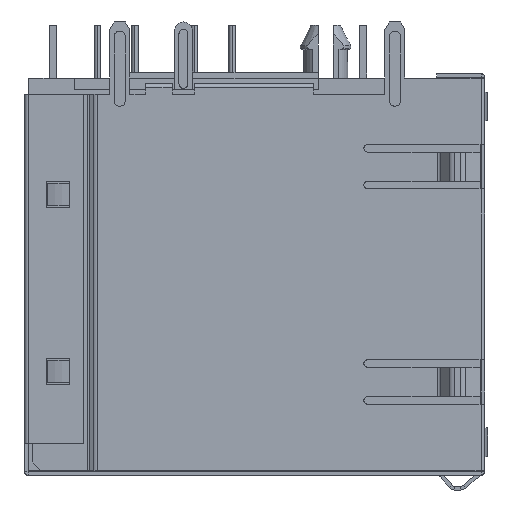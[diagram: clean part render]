
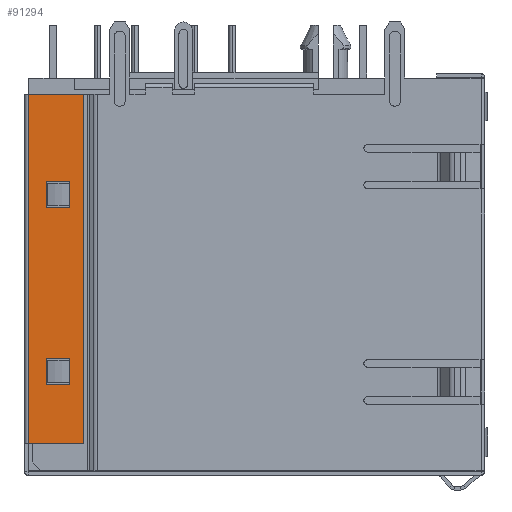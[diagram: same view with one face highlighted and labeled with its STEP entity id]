
A CAD part, left-side view. The second image highlights one B-rep face of the part: STEP entity #91294.
In plain terms, the highlighted planar face has unit normal (-1, 0, 0).
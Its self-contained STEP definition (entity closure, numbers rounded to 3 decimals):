
#84595=DIRECTION('',(0.,0.,-1.));
#84596=VECTOR('',#84595,23.7);
#84597=CARTESIAN_POINT('',(-32.955,15.365,25.85));
#84598=LINE('',#84597,#84596);
#84599=DIRECTION('',(0.,1.,0.));
#84600=VECTOR('',#84599,3.75);
#84601=CARTESIAN_POINT('',(-32.955,11.615,2.15));
#84602=LINE('',#84601,#84600);
#84603=DIRECTION('',(0.,-1.,0.));
#84604=VECTOR('',#84603,3.75);
#84605=CARTESIAN_POINT('',(-32.955,15.365,25.85));
#84606=LINE('',#84605,#84604);
#84607=DIRECTION('',(0.,0.,-1.));
#84608=VECTOR('',#84607,23.7);
#84609=CARTESIAN_POINT('',(-32.955,11.615,25.85));
#84610=LINE('',#84609,#84608);
#84611=DIRECTION('',(0.,0.,-1.));
#84612=VECTOR('',#84611,1.8);
#84613=CARTESIAN_POINT('',(-32.955,14.145,7.95));
#84614=LINE('',#84613,#84612);
#84615=DIRECTION('',(0.,-1.,0.));
#84616=VECTOR('',#84615,1.6);
#84617=CARTESIAN_POINT('',(-32.955,14.145,6.15));
#84618=LINE('',#84617,#84616);
#84619=DIRECTION('',(0.,0.,1.));
#84620=VECTOR('',#84619,1.8);
#84621=CARTESIAN_POINT('',(-32.955,12.545,6.15));
#84622=LINE('',#84621,#84620);
#84623=DIRECTION('',(0.,1.,0.));
#84624=VECTOR('',#84623,1.6);
#84625=CARTESIAN_POINT('',(-32.955,12.545,7.95));
#84626=LINE('',#84625,#84624);
#84627=DIRECTION('',(0.,0.,-1.));
#84628=VECTOR('',#84627,1.8);
#84629=CARTESIAN_POINT('',(-32.955,14.145,19.95));
#84630=LINE('',#84629,#84628);
#84631=DIRECTION('',(0.,-1.,0.));
#84632=VECTOR('',#84631,1.6);
#84633=CARTESIAN_POINT('',(-32.955,14.145,18.15));
#84634=LINE('',#84633,#84632);
#84635=DIRECTION('',(0.,0.,1.));
#84636=VECTOR('',#84635,1.8);
#84637=CARTESIAN_POINT('',(-32.955,12.545,18.15));
#84638=LINE('',#84637,#84636);
#84639=DIRECTION('',(0.,1.,0.));
#84640=VECTOR('',#84639,1.6);
#84641=CARTESIAN_POINT('',(-32.955,12.545,19.95));
#84642=LINE('',#84641,#84640);
#86135=CARTESIAN_POINT('',(-32.955,15.365,25.85));
#86136=VERTEX_POINT('',#86135);
#86137=CARTESIAN_POINT('',(-32.955,11.615,25.85));
#86138=VERTEX_POINT('',#86137);
#86141=CARTESIAN_POINT('',(-32.955,11.615,2.15));
#86142=CARTESIAN_POINT('',(-32.955,15.365,2.15));
#86143=VERTEX_POINT('',#86141);
#86144=VERTEX_POINT('',#86142);
#86145=CARTESIAN_POINT('',(-32.955,14.145,7.95));
#86146=CARTESIAN_POINT('',(-32.955,14.145,6.15));
#86147=VERTEX_POINT('',#86145);
#86148=VERTEX_POINT('',#86146);
#86149=CARTESIAN_POINT('',(-32.955,12.545,6.15));
#86150=VERTEX_POINT('',#86149);
#86151=CARTESIAN_POINT('',(-32.955,12.545,7.95));
#86152=VERTEX_POINT('',#86151);
#86153=CARTESIAN_POINT('',(-32.955,14.145,19.95));
#86154=CARTESIAN_POINT('',(-32.955,14.145,18.15));
#86155=VERTEX_POINT('',#86153);
#86156=VERTEX_POINT('',#86154);
#86157=CARTESIAN_POINT('',(-32.955,12.545,18.15));
#86158=VERTEX_POINT('',#86157);
#86159=CARTESIAN_POINT('',(-32.955,12.545,19.95));
#86160=VERTEX_POINT('',#86159);
#91261=CARTESIAN_POINT('',(-32.955,15.615,0.25));
#91262=DIRECTION('',(-1.,0.,0.));
#91263=DIRECTION('',(0.,0.,-1.));
#91264=AXIS2_PLACEMENT_3D('',#91261,#91262,#91263);
#91265=PLANE('',#91264);
#91267=ORIENTED_EDGE('',*,*,#91266,.T.);
#91268=ORIENTED_EDGE('',*,*,#91256,.F.);
#91269=ORIENTED_EDGE('',*,*,#91198,.T.);
#91271=ORIENTED_EDGE('',*,*,#91270,.T.);
#91272=EDGE_LOOP('',(#91267,#91268,#91269,#91271));
#91273=FACE_OUTER_BOUND('',#91272,.F.);
#91275=ORIENTED_EDGE('',*,*,#91274,.T.);
#91277=ORIENTED_EDGE('',*,*,#91276,.T.);
#91279=ORIENTED_EDGE('',*,*,#91278,.T.);
#91281=ORIENTED_EDGE('',*,*,#91280,.T.);
#91282=EDGE_LOOP('',(#91275,#91277,#91279,#91281));
#91283=FACE_BOUND('',#91282,.F.);
#91285=ORIENTED_EDGE('',*,*,#91284,.T.);
#91287=ORIENTED_EDGE('',*,*,#91286,.T.);
#91289=ORIENTED_EDGE('',*,*,#91288,.T.);
#91291=ORIENTED_EDGE('',*,*,#91290,.T.);
#91292=EDGE_LOOP('',(#91285,#91287,#91289,#91291));
#91293=FACE_BOUND('',#91292,.F.);
#91294=ADVANCED_FACE('',(#91273,#91283,#91293),#91265,.T.);
#91198=EDGE_CURVE('',#86136,#86138,#84606,.T.);
#91256=EDGE_CURVE('',#86136,#86144,#84598,.T.);
#91266=EDGE_CURVE('',#86143,#86144,#84602,.T.);
#91270=EDGE_CURVE('',#86138,#86143,#84610,.T.);
#91274=EDGE_CURVE('',#86147,#86148,#84614,.T.);
#91276=EDGE_CURVE('',#86148,#86150,#84618,.T.);
#91278=EDGE_CURVE('',#86150,#86152,#84622,.T.);
#91280=EDGE_CURVE('',#86152,#86147,#84626,.T.);
#91284=EDGE_CURVE('',#86155,#86156,#84630,.T.);
#91286=EDGE_CURVE('',#86156,#86158,#84634,.T.);
#91288=EDGE_CURVE('',#86158,#86160,#84638,.T.);
#91290=EDGE_CURVE('',#86160,#86155,#84642,.T.);
